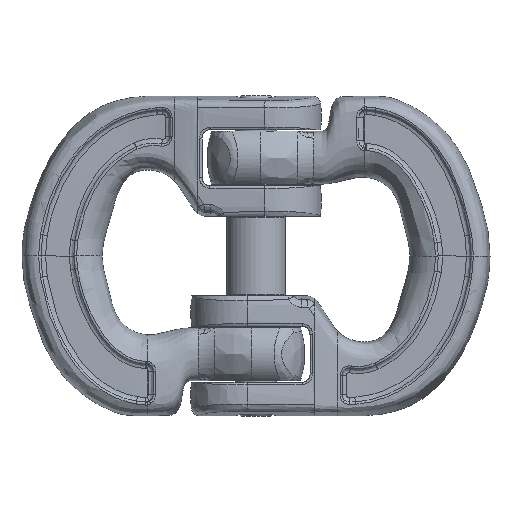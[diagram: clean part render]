
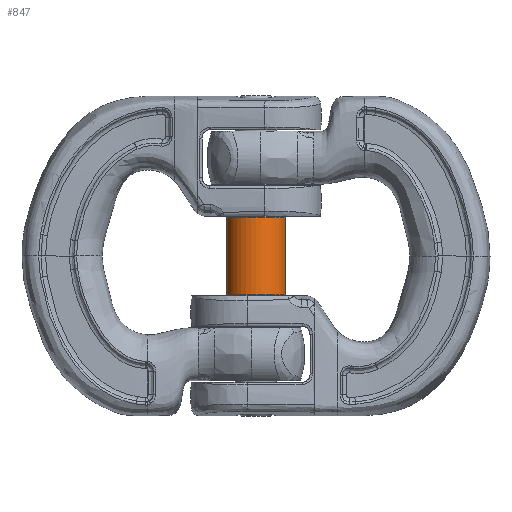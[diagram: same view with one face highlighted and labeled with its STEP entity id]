
A CAD part, left-side view. The second image highlights one B-rep face of the part: STEP entity #847.
In plain terms, the highlighted cylindrical face has radius 11 mm (diameter 22 mm), a full revolution.
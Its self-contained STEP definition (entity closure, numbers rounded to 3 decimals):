
#138=CYLINDRICAL_SURFACE('',#6493,11.);
#847=ADVANCED_FACE('',(#911,#912),#138,.T.);
#911=FACE_BOUND('',#1717,.T.);
#912=FACE_BOUND('',#1718,.T.);
#1717=EDGE_LOOP('',(#3971));
#1718=EDGE_LOOP('',(#3972));
#2051=CIRCLE('',#6491,11.);
#2052=CIRCLE('',#6492,11.);
#3971=ORIENTED_EDGE('',*,*,#5519,.F.);
#3972=ORIENTED_EDGE('',*,*,#5520,.T.);
#4557=VERTEX_POINT('',#47188);
#4558=VERTEX_POINT('',#47190);
#5519=EDGE_CURVE('',#4557,#4557,#2051,.T.);
#5520=EDGE_CURVE('',#4558,#4558,#2052,.T.);
#6491=AXIS2_PLACEMENT_3D('',#47187,#7169,#7170);
#6492=AXIS2_PLACEMENT_3D('',#47189,#7171,#7172);
#6493=AXIS2_PLACEMENT_3D('',#47191,#7173,#7174);
#7169=DIRECTION('',(0.,0.,1.));
#7170=DIRECTION('',(1.,0.,0.));
#7171=DIRECTION('',(0.,0.,1.));
#7172=DIRECTION('',(1.,0.,0.));
#7173=DIRECTION('',(0.,0.,-1.));
#7174=DIRECTION('',(-1.,0.,0.));
#47187=CARTESIAN_POINT('',(0.,0.,39.425));
#47188=CARTESIAN_POINT('',(11.,0.,39.425));
#47189=CARTESIAN_POINT('',(0.,0.,10.425));
#47190=CARTESIAN_POINT('',(11.,0.,10.425));
#47191=CARTESIAN_POINT('',(0.,0.,39.425));
